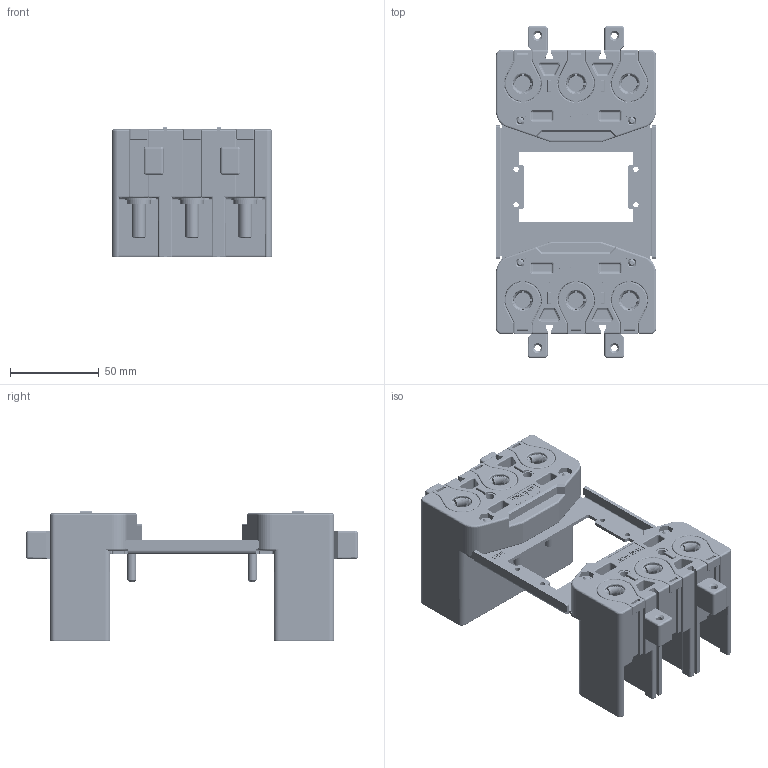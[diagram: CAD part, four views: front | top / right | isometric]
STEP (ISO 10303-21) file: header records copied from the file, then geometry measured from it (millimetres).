
FILE_DESCRIPTION(/* description */ (''),/* implementation_level */ '2;1');
FILE_NAME(/* name */ 'TDM 16GP P3_3D DATA.stp',/* time_stamp */ '2018-04-26T13:04:24+09:00',/* author */ (''),/* organization */ (''),/* preprocessor_version */ 'ST-DEVELOPER v15',/* originating_system */ 'SIEMENS PLM Software NX 9.0',/* authorisation */ '');
FILE_SCHEMA (('AP203_CONFIGURATION_CONTROLLED_3D_DESIGN_OF_MECHANICAL_PARTS_AND_ASSEMBLIES_MIM_LF { 1 0 10303 403 2 1 2}'));
Products named in the file (15): CONNECTED_SPRING_16GP_R00; PC-STUD BOLT M8xL30_R00; GP1-PG-9001_R00; GP1-PR-9001_R00; PC-SNAP RING C(13)_R00; GP1-MO-9002_R00; GP1-MO-9001_R03; GP1-OT-9003_R00; PC_M4 NUT_R00; PC_DH BOLT M4xL22_R00; GP1-PR-9002_R00; GP1-AS-9001_R00; GP1-CP-9002_R00; GP1-CP-9001_R00_MODEL; GP1-CP-9001_R00
Assembly tree (31 placements, depth 5):
  GP1-CP-9001_R00
    GP1-CP-9001_R00_MODEL
      GP1-PR-9002_R00
      GP1-CP-9002_R00  x2
        GP1-MO-9001_R03
        GP1-MO-9002_R00
        GP1-AS-9001_R00
          GP1-PR-9001_R00  x4
          GP1-PG-9001_R00
          PC-STUD BOLT M8xL30_R00
          CONNECTED_SPRING_16GP_R00  x2
        PC-SNAP RING C(13)_R00
      PC_DH BOLT M4xL22_R00  x4
      PC_M4 NUT_R00  x4
      GP1-OT-9003_R00
Bounding box: 90 x 187 x 73.5 mm (x, y, z)
Volume: 309154 mm3; surface area: 161915.4 mm2
Topology: 76 solids, 88 shells, 6450 faces, 15978 edges, 11468 vertices
Faces by surface type: torus 4078, plane 1110, cylinder 886, bspline 148, cone 100, sphere 78, extrusion 50
Full cylindrical faces by diameter (mm): 2.4 x6, 3 x28, 3.5 x4, 4 x14, 4.5 x4, 5 x12, 6.6 x6, 8 x10, 10.3 x6, 11 x6, 12.4 x6, 13.4 x12, 13.5 x6, 14.021 x6, 20.7 x6
Entity records: 53943 total; most frequent: CARTESIAN_POINT 16905, DIRECTION 7612, ORIENTED_EDGE 5564, EDGE_CURVE 2784, AXIS2_PLACEMENT_3D 2599, VECTOR 2414, LINE 2389, VERTEX_POINT 1887
